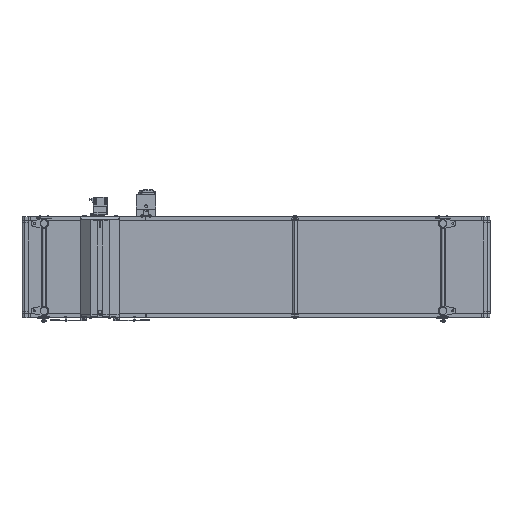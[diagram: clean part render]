
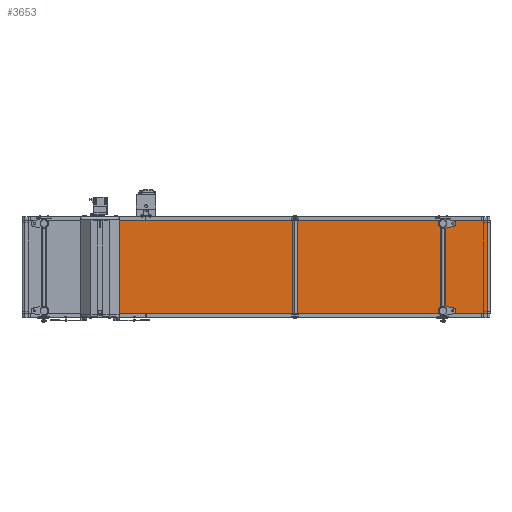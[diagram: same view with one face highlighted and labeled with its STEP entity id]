
A CAD part, front view. The second image highlights one B-rep face of the part: STEP entity #3653.
In plain terms, the highlighted planar face has unit normal (0.005, -1, 0).
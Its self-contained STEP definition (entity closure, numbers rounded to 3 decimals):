
#3653=ADVANCED_FACE('',(#7562),#7561,.T.);
#7561=PLANE('',#37220);
#7562=FACE_OUTER_BOUND('',#37221,.T.);
#37217=CARTESIAN_POINT('',(553.726,-46.311,-310.));
#37218=DIRECTION('',(0.005,-1.,0.));
#37219=DIRECTION('',(1.,0.005,0.));
#37220=AXIS2_PLACEMENT_3D('',#37217,#37218,#37219);
#37221=EDGE_LOOP('',(#58592,#58593,#58594,#58595));
#58592=ORIENTED_EDGE('',*,*,#72693,.F.);
#58593=ORIENTED_EDGE('',*,*,#72692,.F.);
#58594=ORIENTED_EDGE('',*,*,#72694,.T.);
#58595=ORIENTED_EDGE('',*,*,#72695,.T.);
#72692=EDGE_CURVE('',#81677,#81670,#81684,.T.);
#72693=EDGE_CURVE('',#81670,#81690,#81691,.T.);
#72694=EDGE_CURVE('',#81677,#81697,#81698,.T.);
#72695=EDGE_CURVE('',#81697,#81690,#81704,.T.);
#81670=VERTEX_POINT('',#128524);
#81677=VERTEX_POINT('',#128529);
#81684=LINE('',#128534,#128535);
#81690=VERTEX_POINT('',#128537);
#81691=LINE('',#128538,#128539);
#81697=VERTEX_POINT('',#128541);
#81698=LINE('',#128542,#128543);
#81704=LINE('',#128545,#128546);
#128524=CARTESIAN_POINT('',(2983.091,-34.,-300.));
#128529=CARTESIAN_POINT('',(2983.091,-34.,300.));
#128534=CARTESIAN_POINT('',(2983.091,-34.,300.));
#128535=VECTOR('',#128536,600.);
#128536=DIRECTION('',(0.,0.,-1.));
#128537=CARTESIAN_POINT('',(563.726,-46.26,-300.));
#128538=CARTESIAN_POINT('',(2983.091,-34.,-300.));
#128539=VECTOR('',#128540,2419.396);
#128540=DIRECTION('',(-1.,-0.005,0.));
#128541=CARTESIAN_POINT('',(563.726,-46.26,300.));
#128542=CARTESIAN_POINT('',(2983.091,-34.,300.));
#128543=VECTOR('',#128544,2419.396);
#128544=DIRECTION('',(-1.,-0.005,0.));
#128545=CARTESIAN_POINT('',(563.726,-46.26,300.));
#128546=VECTOR('',#128547,600.);
#128547=DIRECTION('',(0.,0.,-1.));
